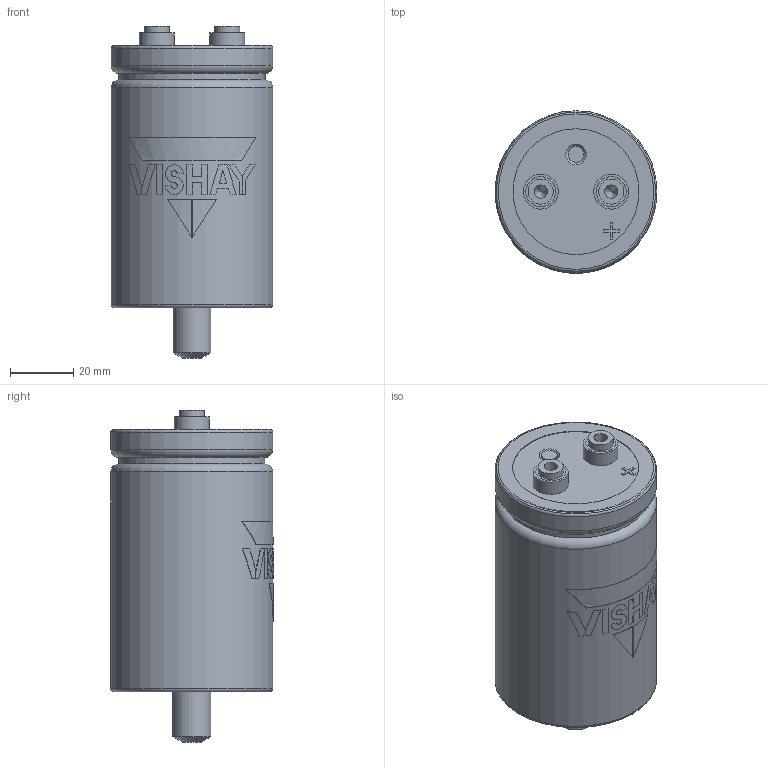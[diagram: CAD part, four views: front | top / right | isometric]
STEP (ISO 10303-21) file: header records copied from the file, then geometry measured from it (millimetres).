
FILE_DESCRIPTION(('FreeCAD Model'),'2;1');
FILE_NAME('C:/Users/tvandesteeg/Documents/Documents/FreeCAD/Stepfiles/ST capacitors/STB_HP_M5_50x80.step','2020-07-02T17:15:24',('Author'),(''), 'Open CASCADE STEP processor 7.3','FreeCAD','Unknown');
FILE_SCHEMA(('AUTOMOTIVE_DESIGN { 1 0 10303 214 1 1 1 1 }'));
Length unit declared in the file: millimetre
Products named in the file (7): VentBody; TerminalBody_(Mirror_#2); TerminalBody; Disc; LogoPrint; CanBody; STBBottomBody
Bounding box: 51 x 51.1 x 104.6 mm (x, y, z)
Volume: 168785.4 mm3; surface area: 31680.8 mm2
Topology: 17 solids, 17 shells, 152 faces, 318 edges, 209 vertices
Faces by surface type: plane 94, cylinder 49, torus 5, cone 4
Full cylindrical faces by diameter (mm): 4.2 x2, 5 x2, 7.9 x2, 9.45 x6, 11 x2, 11.966 x1, 39.667 x3, 46 x1, 47 x2, 51 x2
Entity records: 10704 total; most frequent: CARTESIAN_POINT 3294, DIRECTION 1228, ORIENTED_EDGE 632, PCURVE 632, DEFINITIONAL_REPRESENTATION 632, LINE 542, VECTOR 542, EDGE_CURVE 316
